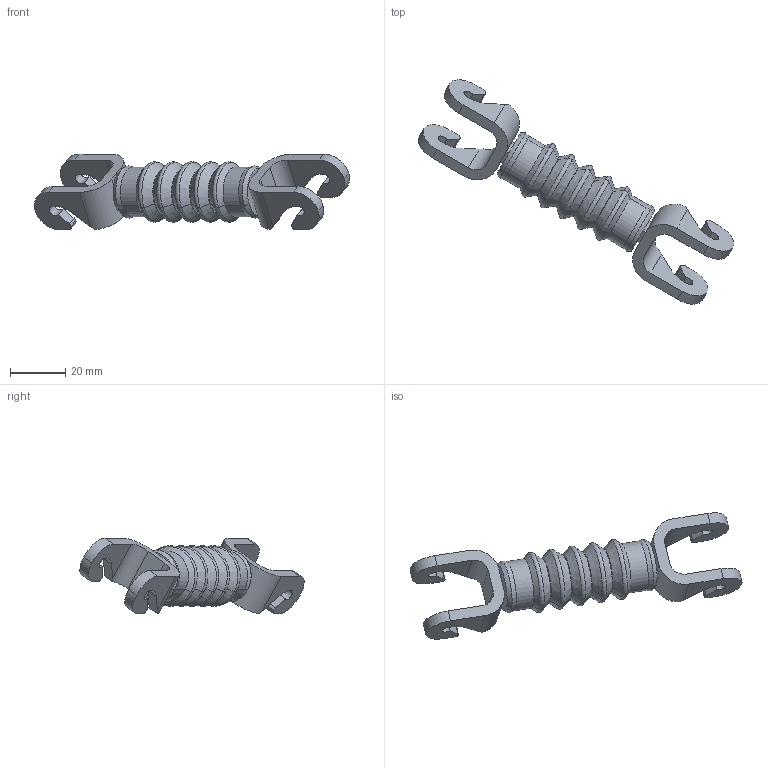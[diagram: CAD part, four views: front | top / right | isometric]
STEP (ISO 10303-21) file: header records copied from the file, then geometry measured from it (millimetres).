
FILE_DESCRIPTION (( 'STEP AP214' ), '1' );
FILE_NAME ('IRB360_X-1600-STD-4D_rev04_LA2_CU_CAD.step', '2025-01-27T14:52:40', ( '' ), ( '' ), 'SwSTEP 2.0', 'SolidWorks 2022', '' );
FILE_SCHEMA (( 'AUTOMOTIVE_DESIGN' ));
Length unit declared in the file: millimetre
Products named in the file (1): IRB360_X-1600-STD-4D_rev04_LA2_CU_CAD
Bounding box: 113.84 x 80.95 x 27.33 mm (x, y, z)
Volume: 24157.4 mm3; surface area: 10290.8 mm2
Topology: 3 solids, 3 shells, 134 faces, 322 edges, 196 vertices
Faces by surface type: plane 42, cylinder 38, cone 28, torus 26
Entity records: 3944 total; most frequent: DIRECTION 738, CARTESIAN_POINT 677, ORIENTED_EDGE 644, EDGE_CURVE 322, AXIS2_PLACEMENT_3D 289, VERTEX_POINT 196, VECTOR 160, LINE 160
